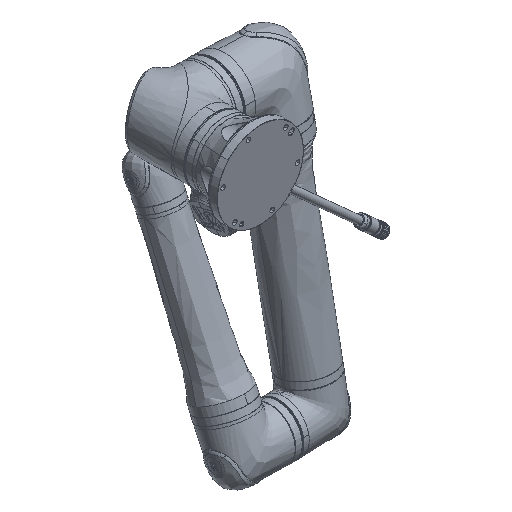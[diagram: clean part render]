
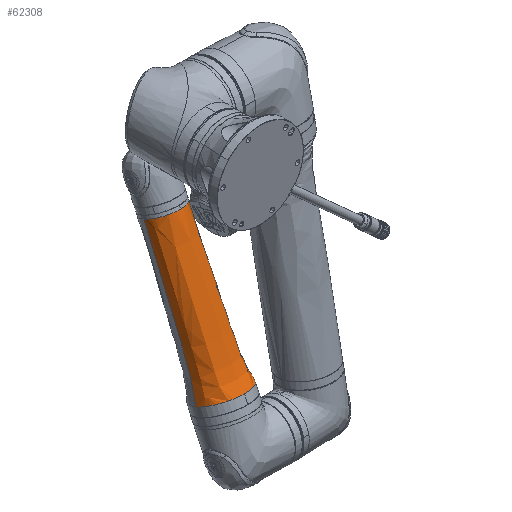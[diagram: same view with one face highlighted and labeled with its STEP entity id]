
A CAD part, isometric view. The second image highlights one B-rep face of the part: STEP entity #62308.
In plain terms, the highlighted free-form (B-spline) face has degree [6, 3] with [7, 4] control points.
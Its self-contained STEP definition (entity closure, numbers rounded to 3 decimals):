
#305 = CARTESIAN_POINT ( 'NONE',  ( 45., 442.6, 0. ) ) ;
#1179 = ORIENTED_EDGE ( 'NONE', *, *, #119472, .T. ) ;
#1331 = ORIENTED_EDGE ( 'NONE', *, *, #91141, .F. ) ;
#4686 = VERTEX_POINT ( 'NONE', #25142 ) ;
#6649 = CARTESIAN_POINT ( 'NONE',  ( 48.24, 157.3, 96.48 ) ) ;
#7702 = EDGE_CURVE ( 'NONE', #51788, #47432, #95541, .T. ) ;
#9467 = DIRECTION ( 'NONE',  ( 0., 1., 0. ) ) ;
#11716 = EDGE_LOOP ( 'NONE', ( #1179, #67563, #24971, #13398, #1331, #20453 ) ) ;
#13398 = ORIENTED_EDGE ( 'NONE', *, *, #124655, .F. ) ;
#13684 = DIRECTION ( 'NONE',  ( 0., 0., -1. ) ) ;
#13828 = CARTESIAN_POINT ( 'NONE',  ( -60., 105.5, 0. ) ) ;
#14259 = CARTESIAN_POINT ( 'NONE',  ( -60., 105.5, 0. ) ) ;
#20453 = ORIENTED_EDGE ( 'NONE', *, *, #7702, .T. ) ;
#21430 = CARTESIAN_POINT ( 'NONE',  ( -50.82, 148.2, 101.64 ) ) ;
#22665 = CARTESIAN_POINT ( 'NONE',  ( -54.18, 138.5, 108.36 ) ) ;
#23165 = CARTESIAN_POINT ( 'NONE',  ( 0., 442.6, 0. ) ) ;
#24971 = ORIENTED_EDGE ( 'NONE', *, *, #125205, .F. ) ;
#25142 = CARTESIAN_POINT ( 'NONE',  ( 60., 105.5, 0. ) ) ;
#25634 = CARTESIAN_POINT ( 'NONE',  ( 54.18, 138.5, 0. ) ) ;
#26441 = CARTESIAN_POINT ( 'NONE',  ( 48., 267.5, 0. ) ) ;
#27799 = CARTESIAN_POINT ( 'NONE',  ( 0., 105.5, 0. ) ) ;
#29748 = CIRCLE ( 'NONE', #47922, 45. ) ;
#31566 = FACE_OUTER_BOUND ( 'NONE', #11716, .T. ) ;
#31732 = CARTESIAN_POINT ( 'NONE',  ( 0., 442.6, 0. ) ) ;
#32969 = DIRECTION ( 'NONE',  ( 0., 0., -1. ) ) ;
#35765 = CARTESIAN_POINT ( 'NONE',  ( 45., 442.6, 0. ) ) ;
#37098 = DIRECTION ( 'NONE',  ( 0., 0., -1. ) ) ;
#39800 = DIRECTION ( 'NONE',  ( 0., 0., -1. ) ) ;
#41045 = CARTESIAN_POINT ( 'NONE',  ( 54.18, 138.5, 108.36 ) ) ;
#41679 = CARTESIAN_POINT ( 'NONE',  ( 48.24, 157.3, 0. ) ) ;
#42297 = CARTESIAN_POINT ( 'NONE',  ( 48., 267.5, 0. ) ) ;
#43306 = CARTESIAN_POINT ( 'NONE',  ( -45., 442.6, 0. ) ) ;
#43365 = CARTESIAN_POINT ( 'NONE',  ( -54.18, 138.5, 0. ) ) ;
#43467 = DIRECTION ( 'NONE',  ( 0., 1., 0. ) ) ;
#43603 = CARTESIAN_POINT ( 'NONE',  ( 45., 442.6, 0. ) ) ;
#44799 = CARTESIAN_POINT ( 'NONE',  ( 48.24, 157.3, 0. ) ) ;
#45242 = CARTESIAN_POINT ( 'NONE',  ( -48., 267.5, 96. ) ) ;
#45997 = CIRCLE ( 'NONE', #82430, 45. ) ;
#47432 = VERTEX_POINT ( 'NONE', #66503 ) ;
#47922 = AXIS2_PLACEMENT_3D ( 'NONE', #31732, #98955, #32969 ) ;
#50549 = CARTESIAN_POINT ( 'NONE',  ( -54.18, 138.5, 0. ) ) ;
#51175 = CARTESIAN_POINT ( 'NONE',  ( -48.24, 157.3, 96.48 ) ) ;
#51788 = VERTEX_POINT ( 'NONE', #13828 ) ;
#51806 = CARTESIAN_POINT ( 'NONE',  ( -60., 105.5, 0. ) ) ;
#51814 = B_SPLINE_CURVE_WITH_KNOTS ( 'NONE', 6,
 ( #14259, #43365, #82062, #120746, #76307, #97221, #67390 ),
 .UNSPECIFIED., .F., .F.,
 ( 7, 7 ),
 ( 0., 1. ),
 .UNSPECIFIED. ) ;
#52943 = AXIS2_PLACEMENT_3D ( 'NONE', #27799, #9467, #39800 ) ;
#54756 = CARTESIAN_POINT ( 'NONE',  ( 60., 105.5, 0. ) ) ;
#60067 = CARTESIAN_POINT ( 'NONE',  ( 48., 267.5, 96. ) ) ;
#61813 = DIRECTION ( 'NONE',  ( 0., 1., 0. ) ) ;
#62308 = ADVANCED_FACE ( 'NONE', ( #31566 ), #64785, .F. ) ;
#64276 = CARTESIAN_POINT ( 'NONE',  ( 50.82, 148.2, 0. ) ) ;
#64785 =( BOUNDED_SURFACE ( )  B_SPLINE_SURFACE ( 6, 3, ( 
 ( #51806, #93474, #73804, #54756 ),
 ( #50549, #22665, #41045, #25634 ),
 ( #99409, #21430, #118425, #64276 ),
 ( #103002, #51175, #6649, #41679 ),
 ( #80386, #45242, #60067, #42297 ),
 ( #82713, #121386, #115632, #64913 ),
 ( #122637, #74431, #124513, #35765 ) ),
 .UNSPECIFIED., .F., .F., .T. ) 
 B_SPLINE_SURFACE_WITH_KNOTS ( ( 7, 7 ),
 ( 4, 4 ),
 ( 0., 1. ),
 ( 0., 1. ),
 .UNSPECIFIED. ) 
 GEOMETRIC_REPRESENTATION_ITEM ( )  RATIONAL_B_SPLINE_SURFACE ( (
 ( 1., 0.333, 0.333, 1.),
 ( 1., 0.333, 0.333, 1.),
 ( 1., 0.333, 0.333, 1.),
 ( 1., 0.333, 0.333, 1.),
 ( 1., 0.333, 0.333, 1.),
 ( 1., 0.333, 0.333, 1.),
 ( 1., 0.333, 0.333, 1.) ) ) 
 REPRESENTATION_ITEM ( '' )  SURFACE ( )  );
#64913 = CARTESIAN_POINT ( 'NONE',  ( 45., 432.3, 0. ) ) ;
#65366 = VERTEX_POINT ( 'NONE', #43603 ) ;
#66503 = CARTESIAN_POINT ( 'NONE',  ( 0., 105.5, 60. ) ) ;
#67390 = CARTESIAN_POINT ( 'NONE',  ( -45., 442.6, 0. ) ) ;
#67563 = ORIENTED_EDGE ( 'NONE', *, *, #90886, .T. ) ;
#73804 = CARTESIAN_POINT ( 'NONE',  ( 60., 105.5, 120. ) ) ;
#74431 = CARTESIAN_POINT ( 'NONE',  ( -45., 442.6, 90. ) ) ;
#76307 = CARTESIAN_POINT ( 'NONE',  ( -48., 267.5, 0. ) ) ;
#76811 = VERTEX_POINT ( 'NONE', #43306 ) ;
#80041 = VERTEX_POINT ( 'NONE', #117936 ) ;
#80386 = CARTESIAN_POINT ( 'NONE',  ( -48., 267.5, 0. ) ) ;
#81981 = AXIS2_PLACEMENT_3D ( 'NONE', #91692, #43467, #37098 ) ;
#82062 = CARTESIAN_POINT ( 'NONE',  ( -50.82, 148.2, 0. ) ) ;
#82430 = AXIS2_PLACEMENT_3D ( 'NONE', #23165, #61813, #13684 ) ;
#82713 = CARTESIAN_POINT ( 'NONE',  ( -45., 432.3, 0. ) ) ;
#88065 = CIRCLE ( 'NONE', #81981, 60. ) ;
#90886 = EDGE_CURVE ( 'NONE', #4686, #65366, #121453, .T. ) ;
#91141 = EDGE_CURVE ( 'NONE', #51788, #76811, #51814, .T. ) ;
#91692 = CARTESIAN_POINT ( 'NONE',  ( 0., 105.5, 0. ) ) ;
#93474 = CARTESIAN_POINT ( 'NONE',  ( -60., 105.5, 120. ) ) ;
#93666 = CARTESIAN_POINT ( 'NONE',  ( 50.82, 148.2, 0. ) ) ;
#95541 = CIRCLE ( 'NONE', #52943, 60. ) ;
#97221 = CARTESIAN_POINT ( 'NONE',  ( -45., 432.3, 0. ) ) ;
#98955 = DIRECTION ( 'NONE',  ( 0., 1., 0. ) ) ;
#99409 = CARTESIAN_POINT ( 'NONE',  ( -50.82, 148.2, 0. ) ) ;
#103002 = CARTESIAN_POINT ( 'NONE',  ( -48.24, 157.3, 0. ) ) ;
#103192 = CARTESIAN_POINT ( 'NONE',  ( 60., 105.5, 0. ) ) ;
#103810 = CARTESIAN_POINT ( 'NONE',  ( 45., 432.3, 0. ) ) ;
#112696 = CARTESIAN_POINT ( 'NONE',  ( 54.18, 138.5, 0. ) ) ;
#115632 = CARTESIAN_POINT ( 'NONE',  ( 45., 432.3, 90. ) ) ;
#117936 = CARTESIAN_POINT ( 'NONE',  ( 0., 442.6, 45. ) ) ;
#118425 = CARTESIAN_POINT ( 'NONE',  ( 50.82, 148.2, 101.64 ) ) ;
#119472 = EDGE_CURVE ( 'NONE', #47432, #4686, #88065, .T. ) ;
#120746 = CARTESIAN_POINT ( 'NONE',  ( -48.24, 157.3, 0. ) ) ;
#121386 = CARTESIAN_POINT ( 'NONE',  ( -45., 432.3, 90. ) ) ;
#121453 = B_SPLINE_CURVE_WITH_KNOTS ( 'NONE', 6,
 ( #103192, #112696, #93666, #44799, #26441, #103810, #305 ),
 .UNSPECIFIED., .F., .F.,
 ( 7, 7 ),
 ( 0., 1. ),
 .UNSPECIFIED. ) ;
#122637 = CARTESIAN_POINT ( 'NONE',  ( -45., 442.6, 0. ) ) ;
#124513 = CARTESIAN_POINT ( 'NONE',  ( 45., 442.6, 90. ) ) ;
#124655 = EDGE_CURVE ( 'NONE', #76811, #80041, #29748, .T. ) ;
#125205 = EDGE_CURVE ( 'NONE', #80041, #65366, #45997, .T. ) ;
